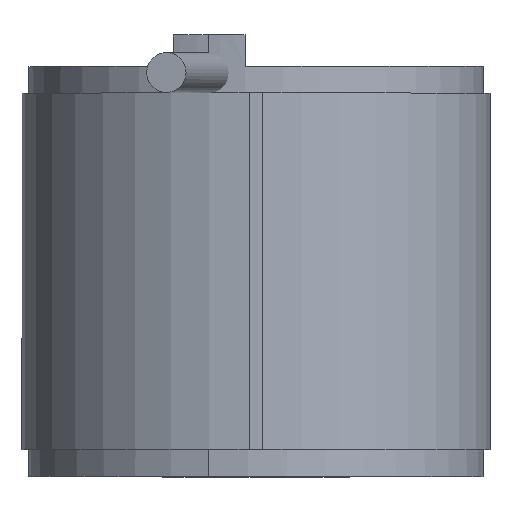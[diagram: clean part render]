
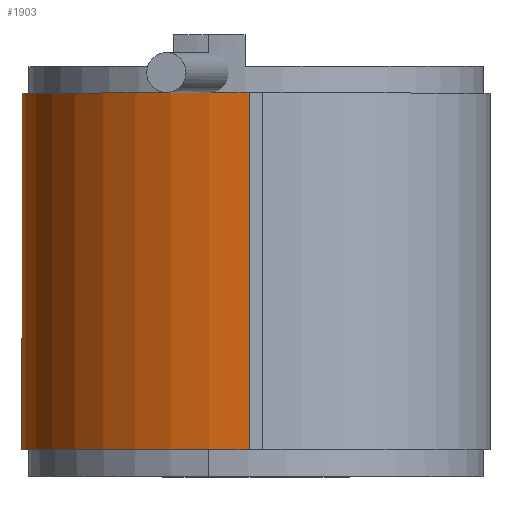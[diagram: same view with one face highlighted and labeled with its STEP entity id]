
A CAD part, top view. The second image highlights one B-rep face of the part: STEP entity #1903.
In plain terms, the highlighted cylindrical face has radius 52.5 mm (diameter 105 mm), a partial arc.
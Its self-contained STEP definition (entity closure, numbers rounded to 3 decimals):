
#226 = EDGE_CURVE ( 'NONE', #3717, #648, #1786, .T. ) ;
#352 = CARTESIAN_POINT ( 'NONE',  ( 1.636, 11.98, 70.142 ) ) ;
#449 = CARTESIAN_POINT ( 'NONE',  ( 1.636, 91.98, 70.142 ) ) ;
#561 = EDGE_LOOP ( 'NONE', ( #4668, #1756, #1584, #4120 ) ) ;
#648 = VERTEX_POINT ( 'NONE', #5063 ) ;
#761 = CARTESIAN_POINT ( 'NONE',  ( 0.111, 236.687, 122.619 ) ) ;
#776 = CARTESIAN_POINT ( 'NONE',  ( 1.636, 91.98, 70.142 ) ) ;
#1107 = AXIS2_PLACEMENT_3D ( 'NONE', #352, #5570, #5193 ) ;
#1572 = LINE ( 'NONE', #761, #2465 ) ;
#1584 = ORIENTED_EDGE ( 'NONE', *, *, #3857, .F. ) ;
#1612 = AXIS2_PLACEMENT_3D ( 'NONE', #776, #3530, #1676 ) ;
#1676 = DIRECTION ( 'NONE',  ( -1., 0., 0. ) ) ;
#1756 = ORIENTED_EDGE ( 'NONE', *, *, #3638, .F. ) ;
#1786 = CIRCLE ( 'NONE', #5273, 52.5 ) ;
#1903 = ADVANCED_FACE ( 'NONE', ( #4119 ), #5433, .T. ) ;
#2465 = VECTOR ( 'NONE', #4922, 1000. ) ;
#2673 = CARTESIAN_POINT ( 'NONE',  ( -50.864, 11.98, 70.142 ) ) ;
#2686 = LINE ( 'NONE', #5531, #5964 ) ;
#3116 = VERTEX_POINT ( 'NONE', #2673 ) ;
#3262 = DIRECTION ( 'NONE',  ( 1., 0., 0. ) ) ;
#3304 = VERTEX_POINT ( 'NONE', #3924 ) ;
#3383 = CARTESIAN_POINT ( 'NONE',  ( 0.111, 91.98, 122.619 ) ) ;
#3530 = DIRECTION ( 'NONE',  ( 0., 1., 0. ) ) ;
#3638 = EDGE_CURVE ( 'NONE', #3304, #3116, #5293, .T. ) ;
#3717 = VERTEX_POINT ( 'NONE', #3383 ) ;
#3857 = EDGE_CURVE ( 'NONE', #3717, #3304, #1572, .T. ) ;
#3924 = CARTESIAN_POINT ( 'NONE',  ( 0.111, 11.98, 122.619 ) ) ;
#4119 = FACE_OUTER_BOUND ( 'NONE', #561, .T. ) ;
#4120 = ORIENTED_EDGE ( 'NONE', *, *, #226, .T. ) ;
#4668 = ORIENTED_EDGE ( 'NONE', *, *, #5609, .F. ) ;
#4922 = DIRECTION ( 'NONE',  ( 0., -1., 0. ) ) ;
#5063 = CARTESIAN_POINT ( 'NONE',  ( -50.864, 91.98, 70.142 ) ) ;
#5193 = DIRECTION ( 'NONE',  ( -1., 0., 0. ) ) ;
#5273 = AXIS2_PLACEMENT_3D ( 'NONE', #449, #6096, #3262 ) ;
#5293 = CIRCLE ( 'NONE', #1107, 52.5 ) ;
#5433 = CYLINDRICAL_SURFACE ( 'NONE', #1612, 52.5 ) ;
#5531 = CARTESIAN_POINT ( 'NONE',  ( -50.864, 91.98, 70.142 ) ) ;
#5570 = DIRECTION ( 'NONE',  ( 0., -1., 0. ) ) ;
#5609 = EDGE_CURVE ( 'NONE', #3116, #648, #2686, .T. ) ;
#5964 = VECTOR ( 'NONE', #6110, 1000. ) ;
#6096 = DIRECTION ( 'NONE',  ( 0., -1., 0. ) ) ;
#6110 = DIRECTION ( 'NONE',  ( 0., 1., 0. ) ) ;
